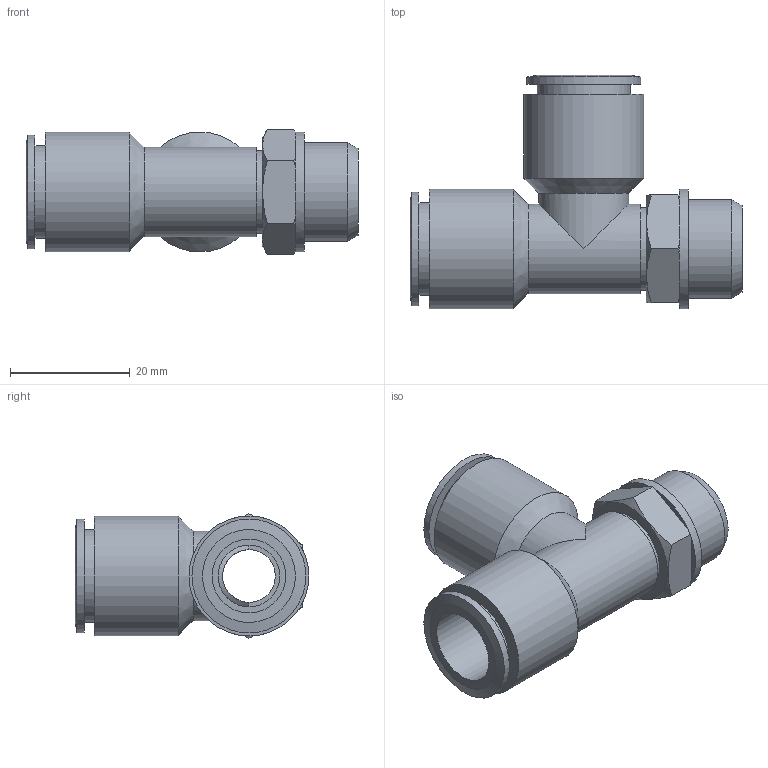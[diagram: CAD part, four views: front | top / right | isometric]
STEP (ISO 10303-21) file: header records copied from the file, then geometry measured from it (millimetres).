
FILE_DESCRIPTION((''),'2;1');
FILE_NAME('C:\Documents and Settings\rivolro1\Documenti\copia di Raccordi\PLASTICA\T21XXXX\T211238.stp','2007-11-02T08:40:17',('Rivolro1'),(''),'Autodesk Inventor 2008','Autodesk Inventor 2008','');
FILE_SCHEMA(('AUTOMOTIVE_DESIGN { 1 0 10303 214 1 1 1 1 }'));
Length unit declared in the file: millimetre
Products named in the file (1): T211238
Bounding box: 55.4 x 39 x 20.78 mm (x, y, z)
Volume: 12144.4 mm3; surface area: 8495.8 mm2
Topology: 1 solids, 1 shells, 62 faces, 124 edges, 76 vertices
Faces by surface type: plane 25, cylinder 19, cone 13, bspline 5
Full cylindrical faces by diameter (mm): 8.8 x1, 10.3 x2, 13.8 x1, 14 x1, 15 x2, 15.5 x2, 16.5 x1, 19 x2, 20 x3
Entity records: 1723 total; most frequent: CARTESIAN_POINT 497, DIRECTION 242, ORIENTED_EDGE 188, AXIS2_PLACEMENT_3D 113, EDGE_LOOP 100, EDGE_CURVE 94, VERTEX_POINT 70, FACE_OUTER_BOUND 62
